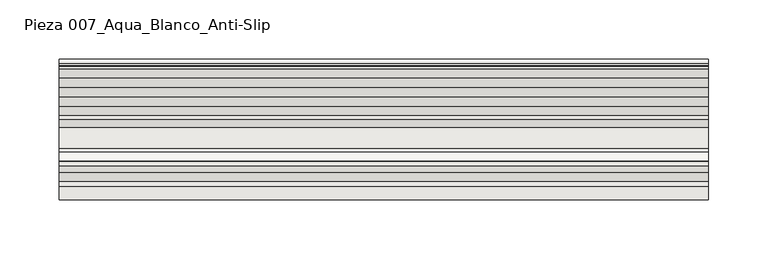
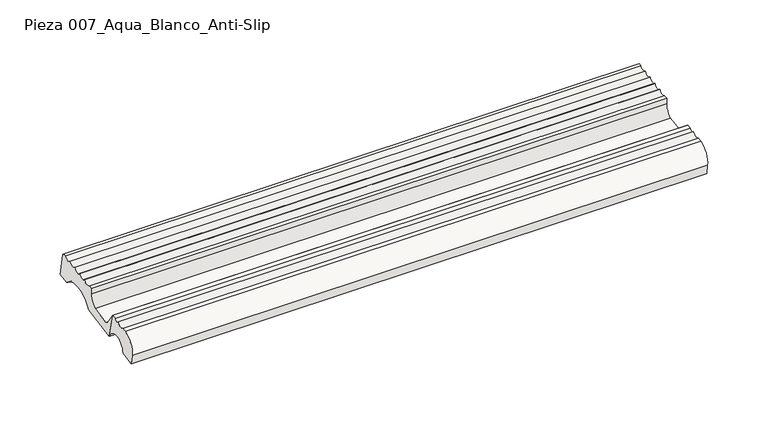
"""IFC4 building model written with IfcOpenShell, lengths in millimetres: slab geometry, ROSA GRES_007 (ref. RS912) : Pieza 007_Aqua_Blanco_Anti-Slip."""

from ifc_helpers import new_model, si_unit, point, frame, frame_2d, origin, place, context, project, spatial, polyline, circle_curve, trimmed, segment, composite_curve, outline, extrude, source, transform, mapped, element, save


def pieza_007_aqua_blanco_anti_slip_a622d274(model_context):
    return source(origin(), model_context, "Body", "SweptSolid", [
        extrude(outline(composite_curve([segment(polyline([(259.6396885, 193.5317744), (246.090753, 191.3098114), (244.5732963, 200.5628566)]), True, "CONTINUOUS"), segment(trimmed(circle_curve(frame_2d((259.6470046, 203.0348753)), 15.2750633), [point((244.5732963, 200.5628566))], [point((256.050293, 217.8804547))], False, "CARTESIAN"), True, "CONTINUOUS"), segment(polyline([(256.050293, 217.8804547), (260.1734423, 218.5213664)]), True, "CONTINUOUS"), segment(trimmed(circle_curve(frame_2d((263.2354237, 222.368262)), 4.9167404), [point((260.1734423, 218.5213664))], [point((267.8189804, 220.5891206))], True, "CARTESIAN"), True, "CONTINUOUS"), segment(trimmed(circle_curve(frame_2d((270.4401027, 221.3277548)), 2.7232081), [point((267.8189804, 220.5891206))], [point((273.0494054, 220.5483947))], True, "CARTESIAN"), True, "CONTINUOUS"), segment(polyline([(273.0494054, 220.5483947), (276.9519891, 221.1883788), (282.2212475, 197.235046)]), True, "CONTINUOUS"), segment(trimmed(circle_curve(frame_2d((271.2823988, 193.2374304)), 11.6464304), [point((282.2212475, 197.235046))], [point((259.6396885, 193.5317744))], True, "CARTESIAN"), True, "CONTINUOUS")], self_intersect=False)), frame((0.0, 0.0, 0.0), z_axis=(1.0, 0.0, 0.0), x_axis=(0.0, 1.0, 0.0)), (0.0, 0.0, 1.0), 550.0),
        extrude(outline(composite_curve([segment(polyline([(316.5462035, 202.8580021), (282.2212475, 197.235046), (276.9561879, 221.189302)]), True, "CONTINUOUS"), segment(trimmed(circle_curve(frame_2d((347.1444401, 259.7528362)), 80.084561), [point((276.9561879, 221.189302))], [point((285.0171549, 209.2183198))], True, "CARTESIAN"), True, "CONTINUOUS"), segment(trimmed(circle_curve(frame_2d((287.5346684, 210.849922)), 3.0), [point((285.0171549, 209.2183198))], [point((288.0196503, 207.8893827))], True, "CARTESIAN"), True, "CONTINUOUS"), segment(polyline([(288.0196503, 207.8893827), (305.8836599, 210.8157825)]), True, "CONTINUOUS"), segment(trimmed(circle_curve(frame_2d((300.174547, 221.6806205)), 12.2734948), [point((305.8836599, 210.8157825))], [point((312.4471257, 221.8305741))], True, "CARTESIAN"), True, "CONTINUOUS"), segment(polyline([(312.4471257, 221.8305741), (312.3840488, 226.9929422), (316.0713373, 227.5969768)]), True, "CONTINUOUS"), segment(trimmed(circle_curve(frame_2d((319.2539623, 230.8983694)), 4.5856619), [point((316.0713373, 227.5969768))], [point((323.5936646, 229.416722))], True, "CARTESIAN"), True, "CONTINUOUS"), segment(trimmed(circle_curve(frame_2d((327.2300525, 232.2104611)), 4.5856619), [point((323.5936646, 229.416722))], [point((331.5697548, 230.7288138))], True, "CARTESIAN"), True, "CONTINUOUS"), segment(trimmed(circle_curve(frame_2d((335.2061427, 233.5225529)), 4.5856619), [point((331.5697548, 230.7288138))], [point((339.537411, 232.0164288))], True, "CARTESIAN"), True, "CONTINUOUS"), segment(trimmed(circle_curve(frame_2d((343.1490307, 235.2775143)), 4.8660534), [point((339.537411, 232.0164288))], [point((347.6033911, 233.3186501))], True, "CARTESIAN"), True, "CONTINUOUS"), segment(trimmed(circle_curve(frame_2d((351.1843269, 236.5760467)), 4.8408403), [point((347.6033911, 233.3186501))], [point((355.3558235, 234.1199622))], True, "CARTESIAN"), True, "CONTINUOUS"), segment(polyline([(355.3558235, 234.1199622), (357.6163107, 234.4903454), (357.9843942, 232.2433907), (359.9121733, 232.5591901), (363.5171958, 210.5525735), (352.6777362, 208.7769031)]), True, "CONTINUOUS"), segment(trimmed(circle_curve(frame_2d((336.7370405, 192.845102)), 22.5372595), [point((352.6777362, 208.7769031))], [point((316.5462035, 202.8580021))], True, "CARTESIAN"), True, "CONTINUOUS")], self_intersect=False)), frame((0.0, 0.0, 0.0), z_axis=(1.0, 0.0, 0.0), x_axis=(0.0, 1.0, 0.0)), (0.0, 0.0, 1.0), 550.0),
    ])


if __name__ == "__main__":
    model = new_model("IFC4")
    model_context = context("Model", 3, world=origin())
    ifc_project = project(units=[si_unit("LENGTHUNIT", "METRE", prefix="MILLI")], contexts=[model_context])
    site = spatial("IfcSite", under=ifc_project)
    building = spatial("IfcBuilding", under=site)
    placement = place(None, origin())
    pieza_007_aqua_blanco_anti_slip_shape = pieza_007_aqua_blanco_anti_slip_a622d274(model_context)
    element("IfcSlab", 1, ObjectType="ROSA GRES_007 (ref. RS912) : Pieza 007_Aqua_Blanco_Anti-Slip", at=placement, inside=building, context=model_context, shape_type="MappedRepresentation", body=[
        mapped(pieza_007_aqua_blanco_anti_slip_shape, transform((0.0, 0.0, 0.0), x_axis=(1.0, 0.0, 0.0), y_axis=(0.0, 1.0, 0.0), z_axis=(0.0, 0.0, 1.0))),
    ])
    save(model, "model.ifc")
